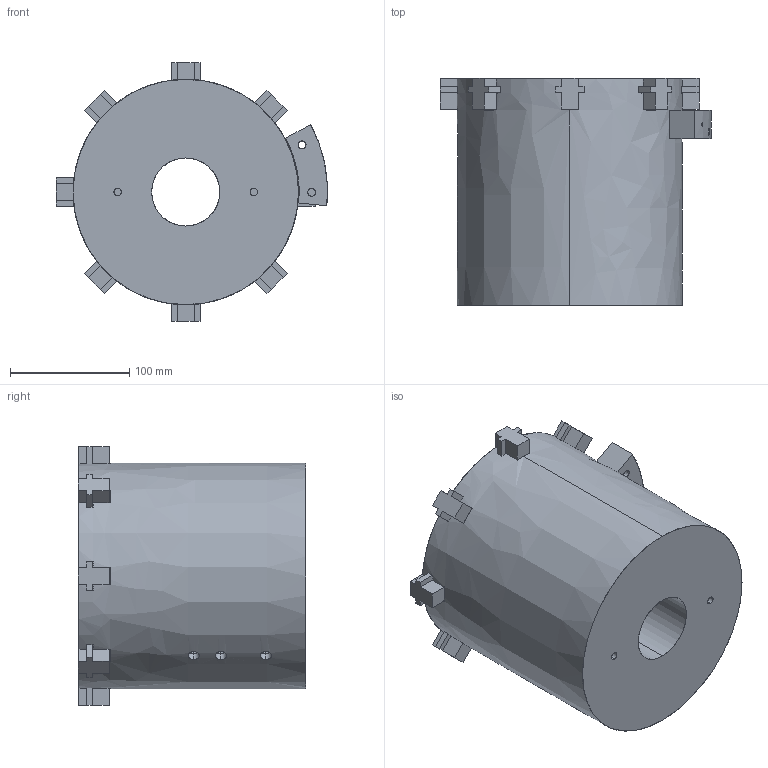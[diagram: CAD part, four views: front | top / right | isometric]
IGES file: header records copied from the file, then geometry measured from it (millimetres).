
Start section: SolidWorks IGES file using analytic representation for surfaces
Global section: file name: C:\Users\cad\Downloads\AGP-10-ORM (3)\AGP-10-ORM\Iges\agp10or_open.IGS; native system: SolidWorks 2017; preprocessor: SolidWorks 2017; author: cad; date: 191101.092720; units: inch
Bounding box: 227.66 x 191.13 x 217.17 mm (x, y, z)
Surface area: 303393.2 mm2 (no closed solid volume)
Topology: 0 solids, 0 shells, 644 faces, 7914 edges, 7814 vertices
Faces by surface type: revolution 368, bspline 276
